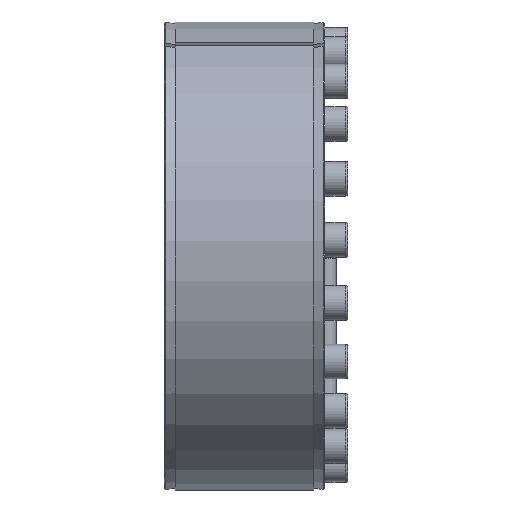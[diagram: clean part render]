
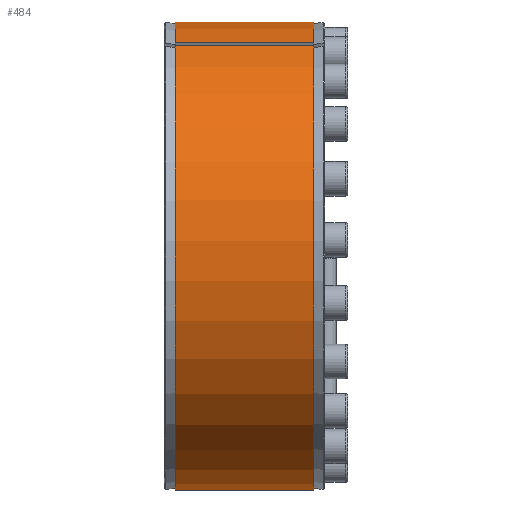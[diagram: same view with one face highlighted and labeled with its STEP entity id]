
A CAD part, left-side view. The second image highlights one B-rep face of the part: STEP entity #484.
In plain terms, the highlighted cylindrical face has radius 162.5 mm (diameter 325 mm), a partial arc.
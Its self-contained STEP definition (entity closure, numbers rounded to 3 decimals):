
#484 = ADVANCED_FACE( '', ( #865 ), #866, .T. );
#865 = FACE_OUTER_BOUND( '', #1292, .T. );
#866 = CYLINDRICAL_SURFACE( '', #1293, 162.5 );
#1292 = EDGE_LOOP( '', ( #2035, #2036, #2037, #2038 ) );
#1293 = AXIS2_PLACEMENT_3D( '', #2039, #2040, #2041 );
#2035 = ORIENTED_EDGE( '', *, *, #2771, .T. );
#2036 = ORIENTED_EDGE( '', *, *, #2729, .T. );
#2037 = ORIENTED_EDGE( '', *, *, #2800, .F. );
#2038 = ORIENTED_EDGE( '', *, *, #2908, .T. );
#2039 = CARTESIAN_POINT( '', ( 0., -60., 0. ) );
#2040 = DIRECTION( '', ( 0., 1., 0. ) );
#2041 = DIRECTION( '', ( 0., 0., -1. ) );
#2729 = EDGE_CURVE( '', #3115, #3113, #3116, .T. );
#2771 = EDGE_CURVE( '', #3193, #3115, #3194, .T. );
#2800 = EDGE_CURVE( '', #3247, #3113, #3248, .T. );
#2908 = EDGE_CURVE( '', #3247, #3193, #3432, .F. );
#3113 = VERTEX_POINT( '', #3669 );
#3115 = VERTEX_POINT( '', #3672 );
#3116 = LINE( '', #3673, #3674 );
#3193 = VERTEX_POINT( '', #3776 );
#3194 = CIRCLE( '', #3777, 162.5 );
#3247 = VERTEX_POINT( '', #3838 );
#3248 = CIRCLE( '', #3839, 162.5 );
#3432 = LINE( '', #4646, #4647 );
#3669 = CARTESIAN_POINT( '', ( -68.245, 7.5, 147.475 ) );
#3672 = CARTESIAN_POINT( '', ( -68.245, 103.5, 147.475 ) );
#3673 = CARTESIAN_POINT( '', ( -68.245, -60., 147.475 ) );
#3674 = VECTOR( '', #4832, 1000. );
#3776 = CARTESIAN_POINT( '', ( -72.75, 103.5, 145.305 ) );
#3777 = AXIS2_PLACEMENT_3D( '', #4927, #4928, #4929 );
#3838 = CARTESIAN_POINT( '', ( -72.75, 7.5, 145.305 ) );
#3839 = AXIS2_PLACEMENT_3D( '', #5004, #5005, #5006 );
#4646 = CARTESIAN_POINT( '', ( -72.75, -60., 145.305 ) );
#4647 = VECTOR( '', #5246, 1000. );
#4832 = DIRECTION( '', ( 0., -1., 0. ) );
#4927 = CARTESIAN_POINT( '', ( 0., 103.5, 0. ) );
#4928 = DIRECTION( '', ( 0., -1., 0. ) );
#4929 = DIRECTION( '', ( 0., 0., -1. ) );
#5004 = CARTESIAN_POINT( '', ( 0., 7.5, 0. ) );
#5005 = DIRECTION( '', ( 0., -1., 0. ) );
#5006 = DIRECTION( '', ( 0., 0., -1. ) );
#5246 = DIRECTION( '', ( 0., -1., 0. ) );
